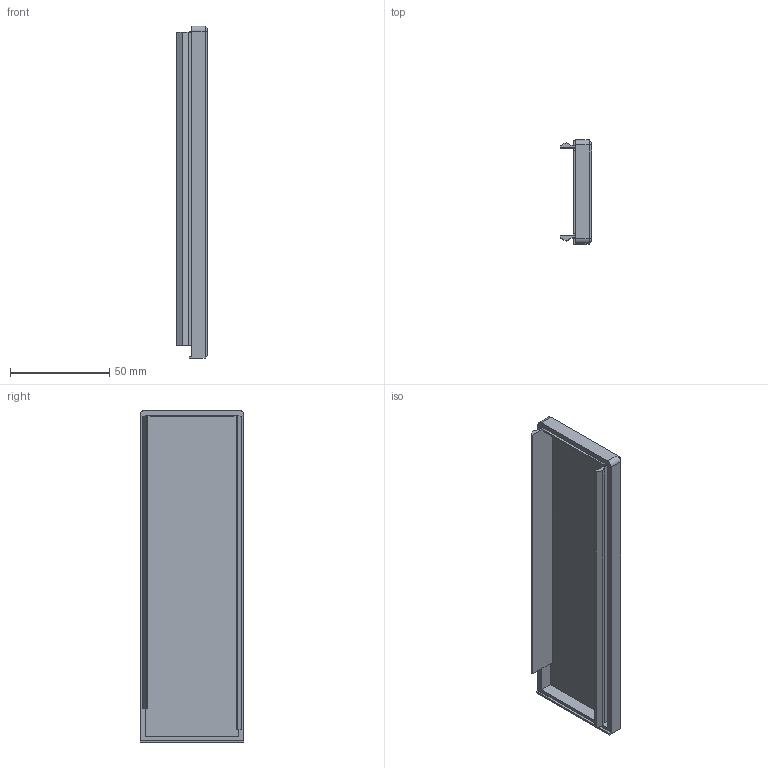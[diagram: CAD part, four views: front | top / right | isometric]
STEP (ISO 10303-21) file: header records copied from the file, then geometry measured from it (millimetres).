
FILE_DESCRIPTION (( 'STEP AP214' ), '1' );
FILE_NAME ('Right Side Cover.STEP', '2021-06-11T04:51:28', ( '' ), ( '' ), 'SwSTEP 2.0', 'SolidWorks 2016', '' );
FILE_SCHEMA (( 'AUTOMOTIVE_DESIGN' ));
Length unit declared in the file: inch
Products named in the file (1): Right Side Cover
Bounding box: 15.79 x 52.28 x 167.64 mm (x, y, z)
Volume: 26653.5 mm3; surface area: 32924.2 mm2
Topology: 1 solids, 1 shells, 339 faces, 895 edges, 594 vertices
Faces by surface type: plane 212, bspline 117, cylinder 8, cone 2
Entity records: 15657 total; most frequent: CARTESIAN_POINT 8002, ORIENTED_EDGE 1790, DIRECTION 1125, EDGE_CURVE 895, VECTOR 643, LINE 643, VERTEX_POINT 594, EDGE_LOOP 375
